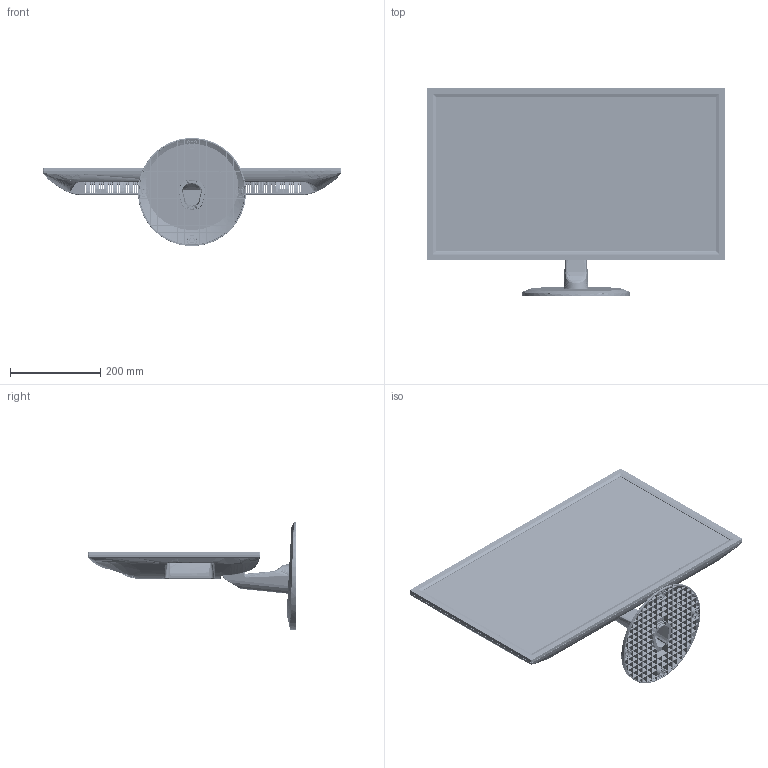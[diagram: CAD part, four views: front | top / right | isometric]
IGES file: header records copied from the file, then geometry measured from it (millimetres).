
Start section: SolidWorks IGES file using analytic representation for surfaces
Global section: file name: C:\Richard Folder\1195 Building\1195 Rich Directory\997-7685-00_IX2850\Final\997-7685-00.IGS; native system: SolidWorks 2014; preprocessor: SolidWorks 2014; author: RDavenport; date: 140611.114752; units: millimetre
Bounding box: 662.93 x 462.96 x 239.91 mm (x, y, z)
Surface area: 1552000.3 mm2 (no closed solid volume)
Topology: 0 solids, 0 shells, 8095 faces, 78056 edges, 78014 vertices
Faces by surface type: bspline 6042, revolution 2053
